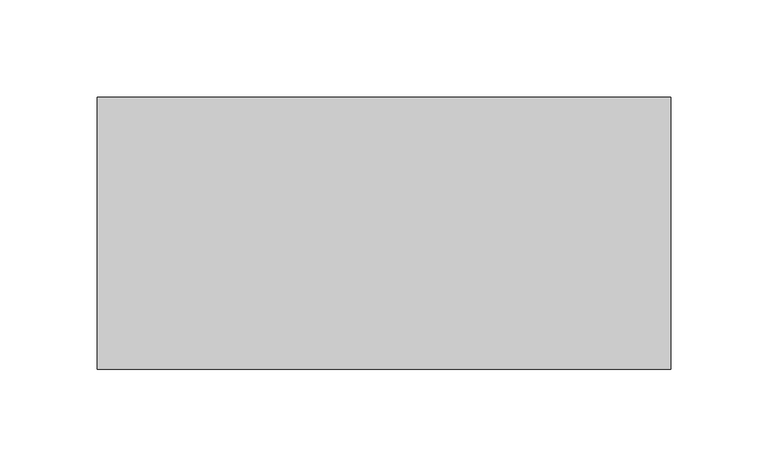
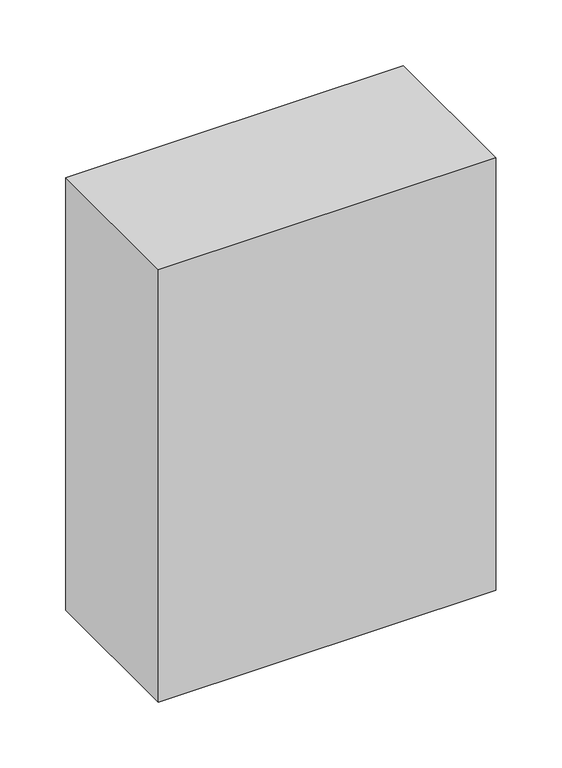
"""IFC4 building model written with IfcOpenShell, lengths in millimetres: proxy geometry."""

from ifc_helpers import new_model, si_unit, frame, origin, place, context, project, spatial, polyline, outline, extrude, source, transform, mapped, element, save


def structural_framing_b381d96e(model_context):
    return source(origin(), model_context, "Body", "SweptSolid", [
        extrude(outline(polyline([(-147.55, -70.0), (-147.55, 70.0), (147.55, 70.0), (147.55, -70.0), (-147.55, -70.0)])), frame((0.0, 0.0, -400.0), z_axis=(0.0, 0.0, 1.0), x_axis=(1.0, 0.0, 0.0)), (0.0, 0.0, 1.0), 400.0),
    ])


if __name__ == "__main__":
    model = new_model("IFC4")
    model_context = context("Model", 3, world=origin())
    ifc_project = project(units=[si_unit("LENGTHUNIT", "METRE", prefix="MILLI")], contexts=[model_context])
    site = spatial("IfcSite", under=ifc_project)
    building = spatial("IfcBuilding", under=site)
    placement = place(None, origin())
    structural_framing_shape = structural_framing_b381d96e(model_context)
    element("IfcBuildingElementProxy", 1, Name="Structural Framing", at=placement, inside=building, context=model_context, shape_type="MappedRepresentation", body=[
        mapped(structural_framing_shape, transform((0.0, 0.0, 0.0), x_axis=(1.0, 0.0, 0.0), y_axis=(0.0, 1.0, 0.0), z_axis=(0.0, 0.0, 1.0))),
    ])
    save(model, "model.ifc")
